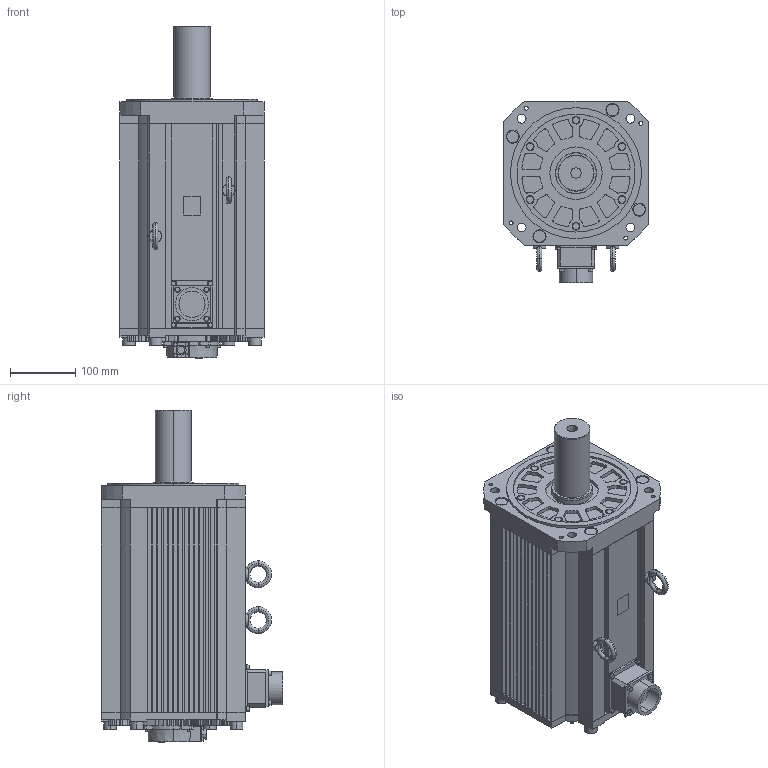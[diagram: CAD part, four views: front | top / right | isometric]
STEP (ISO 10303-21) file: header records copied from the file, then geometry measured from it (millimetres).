
FILE_DESCRIPTION (( 'STEP AP214' ), '1' );
FILE_NAME ('sgmxg_1eaua81a2.STEP', '2022-06-30T06:27:59', ( '' ), ( '' ), 'SwSTEP 2.0', 'SolidWorks 2016', '' );
FILE_SCHEMA (( 'AUTOMOTIVE_DESIGN' ));
Length unit declared in the file: millimetre
Products named in the file (1): sgmxg_1eaua81a2
Bounding box: 220 x 277.06 x 507.2 mm (x, y, z)
Volume: 14978814.4 mm3; surface area: 681425.2 mm2
Topology: 1 solids, 1 shells, 1142 faces, 3069 edges, 2034 vertices
Faces by surface type: plane 678, cylinder 433, torus 20, cone 11
Entity records: 37239 total; most frequent: CARTESIAN_POINT 6467, DIRECTION 6261, ORIENTED_EDGE 6138, EDGE_CURVE 3069, LINE 2119, VECTOR 2119, AXIS2_PLACEMENT_3D 2071, VERTEX_POINT 2034
